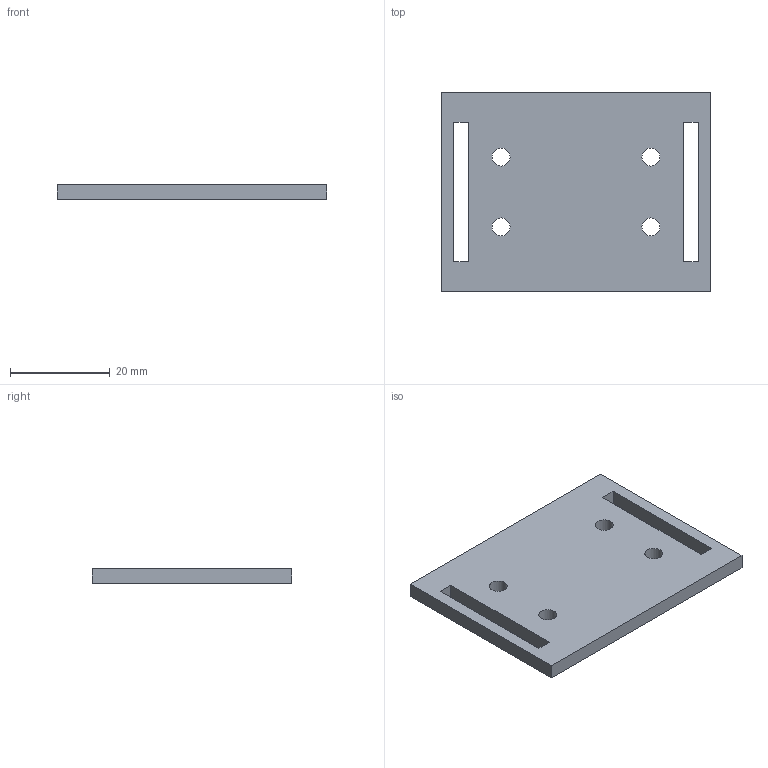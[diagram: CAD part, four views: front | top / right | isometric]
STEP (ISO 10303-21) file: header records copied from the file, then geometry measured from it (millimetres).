
FILE_DESCRIPTION(('Open CASCADE Model'),'2;1');
FILE_NAME('Open CASCADE Shape Model','2026-10-06T17:17:59',('Author'),( 'Open CASCADE'),'Open CASCADE STEP processor 7.8','Open CASCADE 7.8' ,'Unknown');
FILE_SCHEMA(('AUTOMOTIVE_DESIGN { 1 0 10303 214 1 1 1 1 }'));
Length unit declared in the file: millimetre
Products named in the file (1): Open CASCADE STEP translator 7.8 13
Bounding box: 54 x 40 x 3 mm (x, y, z)
Volume: 5853.9 mm3; surface area: 4974.3 mm2
Topology: 1 solids, 1 shells, 18 faces, 48 edges, 32 vertices
Faces by surface type: plane 14, cylinder 4
Full cylindrical faces by diameter (mm): 3.6 x4
Entity records: 1186 total; most frequent: CARTESIAN_POINT 227, DIRECTION 158, ORIENTED_EDGE 96, LINE 96, VECTOR 96, PCURVE 96, DEFINITIONAL_REPRESENTATION 96, EDGE_CURVE 48
